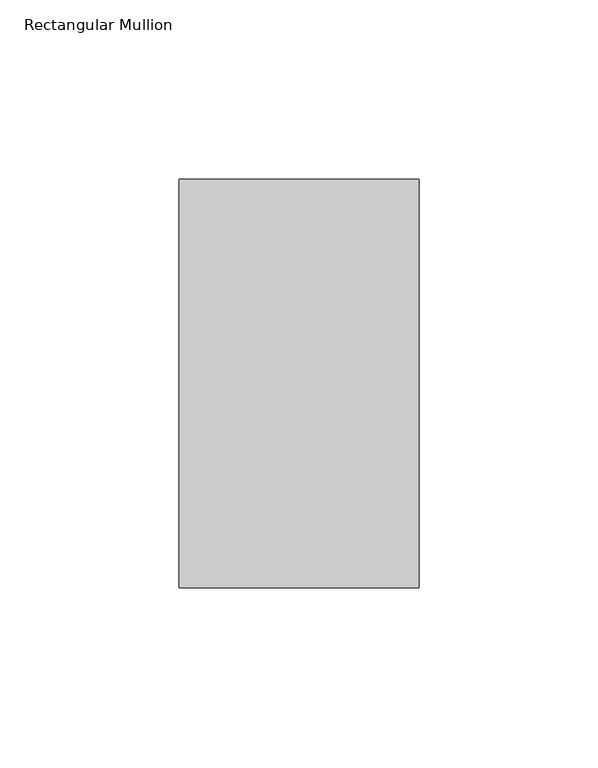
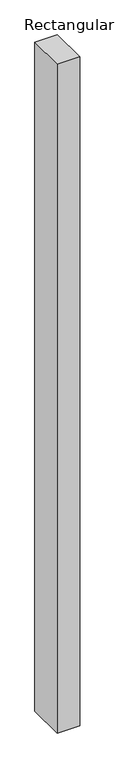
"""IFC4 building model written with IfcOpenShell, lengths in millimetres: member geometry, Rectangular Mullion : 30_rechthoek."""

import ifcopenshell
import ifcopenshell.guid

model = None  # the IFC model being written
_history = None  # IfcOwnerHistory: only IFC2X3 demands one
_inside = {}  # id of a spatial element -> (the spatial element, [elements in it])
_under = {}  # id of a project, library or spatial element -> (it, [spatial elements below it])
_declared = {}  # id of a project -> (the project, [libraries it declares])
_typed = {}  # id of a type object -> (the type object, [elements of that type])
_made_of = {}  # id of a material, layer set ... -> (it, [elements and type objects made of it])


def new_model(schema):
    """Start an empty IFC model of exactly this schema.

    Asked for "IFC4X3", IfcOpenShell would pick the latest addendum, in which some entities
    have other attributes; the version numbers below select the first issue.
    IFC2X3 requires an IfcOwnerHistory on every rooted entity: one is made here for all.
    """
    global model, _history
    if schema == "IFC4X3":
        model = ifcopenshell.file(schema_version=(4, 3, 0, 0))
    else:
        model = ifcopenshell.file(schema=schema)
    _inside.clear()
    _under.clear()
    _declared.clear()
    _typed.clear()
    _made_of.clear()
    _history = None
    if model.schema == "IFC2X3":
        org = make("IfcOrganization", Name="unknown")
        user = make(
            "IfcPersonAndOrganization",
            ThePerson=make("IfcPerson", FamilyName="unknown"),
            TheOrganization=org,
        )
        app = make(
            "IfcApplication",
            ApplicationDeveloper=org,
            Version="unknown",
            ApplicationFullName="unknown",
            ApplicationIdentifier="unknown",
        )
        _history = make(
            "IfcOwnerHistory",
            OwningUser=user,
            OwningApplication=app,
            ChangeAction="ADDED",
            CreationDate=0,
        )
    return model


def make(cls, **values):
    """One entity of the class cls with the attributes given. An attribute that is None is left unset."""
    return model.create_entity(
        cls, **{name: value for name, value in values.items() if value is not None}
    )


def rooted(cls, **values):
    """An entity with a GlobalId (a new one), such as an element, a storey or a relation."""
    return make(cls, GlobalId=ifcopenshell.guid.new(), OwnerHistory=_history, **values)


def si_unit(unit_type, name, prefix=None):
    """IfcSIUnit, for example si_unit("LENGTHUNIT", "METRE", prefix="MILLI")."""
    return make("IfcSIUnit", UnitType=unit_type, Prefix=prefix, Name=name)


def assignment(units):
    """IfcUnitAssignment: the units of a project."""
    return None if units is None else make("IfcUnitAssignment", Units=units)


def point(xyz):
    """IfcCartesianPoint."""
    return None if xyz is None else make("IfcCartesianPoint", Coordinates=xyz)


def direction(xyz):
    """IfcDirection."""
    return None if xyz is None else make("IfcDirection", DirectionRatios=xyz)


def frame(location, z_axis=None, x_axis=None):
    """IfcAxis2Placement3D, a coordinate frame: its origin and axes. An axis left out is left unset."""
    return make(
        "IfcAxis2Placement3D",
        Location=point(location),
        Axis=direction(z_axis),
        RefDirection=direction(x_axis),
    )


def origin():
    """The frame at (0, 0, 0) with its axes left unset."""
    return frame((0.0, 0.0, 0.0))


def place(relative_to, where):
    """IfcLocalPlacement: puts the frame where relative to a parent placement (None: the world)."""
    return make(
        "IfcLocalPlacement", PlacementRelTo=relative_to, RelativePlacement=where
    )


def context(
    kind, dimensions, precision=None, world=None, true_north=None, identifier=None
):
    """IfcGeometricRepresentationContext, for example the 3D "Model" context."""
    return make(
        "IfcGeometricRepresentationContext",
        ContextIdentifier=identifier,
        ContextType=kind,
        CoordinateSpaceDimension=dimensions,
        Precision=precision,
        WorldCoordinateSystem=world,
        TrueNorth=true_north,
    )


def project(units=None, contexts=None):
    """IfcProject with its units and contexts."""
    return rooted(
        "IfcProject",
        Name="project",
        RepresentationContexts=contexts,
        UnitsInContext=assignment(units),
    )


def spatial(cls, under=None, at=None, **own):
    """A site, building, storey or space (cls), placed at a placement, below another one or the project."""
    s = rooted(cls, ObjectPlacement=at, **own)
    if under is not None:
        _under.setdefault(under.id(), (under, []))[1].append(s)
    return s


def polyline(points):
    """IfcPolyline through the points."""
    return make("IfcPolyline", Points=[point(p) for p in points])


def outline(outer, holes=None, kind="AREA"):
    """IfcArbitraryClosedProfileDef: a profile drawn as a closed curve; with holes, ...WithVoids."""
    if holes is None:
        return make("IfcArbitraryClosedProfileDef", ProfileType=kind, OuterCurve=outer)
    return make(
        "IfcArbitraryProfileDefWithVoids",
        ProfileType=kind,
        OuterCurve=outer,
        InnerCurves=holes,
    )


def extrude(swept, where, along, depth):
    """IfcExtrudedAreaSolid: the profile swept, set in the frame where, extruded along a direction by depth."""
    return make(
        "IfcExtrudedAreaSolid",
        SweptArea=swept,
        Position=where,
        ExtrudedDirection=direction(along),
        Depth=depth,
    )


def shape(context_of_items, identifier, shape_type, items):
    """IfcShapeRepresentation: the items that make up one representation, for example the "Body"."""
    return make(
        "IfcShapeRepresentation",
        ContextOfItems=context_of_items,
        RepresentationIdentifier=identifier,
        RepresentationType=shape_type,
        Items=items,
    )


def source(mapping_origin, context_of_items, identifier, shape_type, items):
    """IfcRepresentationMap: a shape defined once, which mapped items show again and again."""
    return make(
        "IfcRepresentationMap",
        MappingOrigin=mapping_origin,
        MappedRepresentation=shape(context_of_items, identifier, shape_type, items),
    )


def transform(
    local_origin,
    x_axis=None,
    y_axis=None,
    z_axis=None,
    scale=None,
    scale2=None,
    scale3=None,
    uniform=True,
):
    """IfcCartesianTransformationOperator3D, or its non-uniform kind. x_axis, y_axis, z_axis: its Axis1, 2, 3."""
    if uniform:
        return make(
            "IfcCartesianTransformationOperator3D",
            Axis1=direction(x_axis),
            Axis2=direction(y_axis),
            LocalOrigin=point(local_origin),
            Scale=scale,
            Axis3=direction(z_axis),
        )
    return make(
        "IfcCartesianTransformationOperator3DnonUniform",
        Axis1=direction(x_axis),
        Axis2=direction(y_axis),
        LocalOrigin=point(local_origin),
        Scale=scale,
        Axis3=direction(z_axis),
        Scale2=scale2,
        Scale3=scale3,
    )


def mapped(mapping_source, mapping_target):
    """IfcMappedItem: shows the shape of a source again, moved by a transform."""
    return make(
        "IfcMappedItem", MappingSource=mapping_source, MappingTarget=mapping_target
    )


def made_of(thing, what):
    """Note that an element or type object is made of a material, layer set ...; save() writes the relation."""
    if what is not None:
        _made_of.setdefault(what.id(), (what, []))[1].append(thing)
    return thing


def element(
    cls,
    number,
    at=None,
    inside=None,
    cuts=None,
    type_object=None,
    material=None,
    context=None,
    identifier="Body",
    shape_type=None,
    held_by="IfcProductDefinitionShape",
    body=None,
    shapes=None,
    **own,
):
    """One element of the class cls, such as IfcWall. Its Tag is "e" and its number.

    at: its placement. inside: the storey or other place that contains it. cuts: it is an
    opening in that element (IfcRelVoidsElement). A single representation is given by context,
    identifier, shape_type and body (its items); several are given by shapes. held_by: the class
    of the entity that holds the representations. save() writes the other relations.
    """
    e = rooted(cls, Tag="e%d" % number, ObjectPlacement=at, **own)
    if body is not None:
        shapes = [shape(context, identifier, shape_type, body)]
    if shapes is not None:
        e.Representation = make(held_by, Representations=shapes)
    if inside is not None:
        _inside.setdefault(inside.id(), (inside, []))[1].append(e)
    if cuts is not None:
        rooted(
            "IfcRelVoidsElement", RelatingBuildingElement=cuts, RelatedOpeningElement=e
        )
    if type_object is not None:
        _typed.setdefault(type_object.id(), (type_object, []))[1].append(e)
    return made_of(e, material)


def aggregate(whole, parts):
    """IfcRelAggregates: a whole, such as a stair, and the parts it consists of."""
    return rooted("IfcRelAggregates", RelatingObject=whole, RelatedObjects=parts)


def save(model, path):
    """Write the relations noted so far, then the file.

    IfcRelAggregates (storeys below a building ...), IfcRelContainedInSpatialStructure (elements
    in a storey), IfcRelDefinesByType, IfcRelAssociatesMaterial and IfcRelDeclares: one each for
    every whole, place, type object, material and project.
    """
    for whole, parts in _under.values():
        aggregate(whole, parts)
    for where, things in _inside.values():
        rooted(
            "IfcRelContainedInSpatialStructure",
            RelatedElements=things,
            RelatingStructure=where,
        )
    for kind, things in _typed.values():
        rooted("IfcRelDefinesByType", RelatedObjects=things, RelatingType=kind)
    for what, things in _made_of.values():
        rooted("IfcRelAssociatesMaterial", RelatedObjects=things, RelatingMaterial=what)
    for by, libraries in _declared.values():
        rooted("IfcRelDeclares", RelatingContext=by, RelatedDefinitions=libraries)
    model.write(path)


def rectangular_mullion_34e5cd4e(model_context):
    return source(origin(), model_context, "Body", "SweptSolid", [
        extrude(outline(polyline([(33.5, 57.0), (33.5, -57.0), (-33.5, -57.0), (-33.5, 57.0), (33.5, 57.0)])), frame((0.0, 0.0, -2099.5), z_axis=(0.0, 0.0, 1.0), x_axis=(1.0, 0.0, 0.0)), (0.0, 0.0, 1.0), 2099.5),
    ])


if __name__ == "__main__":
    model = new_model("IFC4")
    model_context = context("Model", 3, world=origin())
    ifc_project = project(units=[si_unit("LENGTHUNIT", "METRE", prefix="MILLI")], contexts=[model_context])
    site = spatial("IfcSite", under=ifc_project)
    building = spatial("IfcBuilding", under=site)
    placement = place(None, origin())
    rectangular_mullion_shape = rectangular_mullion_34e5cd4e(model_context)
    element("IfcMember", 1, ObjectType="Rectangular Mullion : 30_rechthoek", at=placement, inside=building, context=model_context, shape_type="MappedRepresentation", body=[
        mapped(rectangular_mullion_shape, transform((0.0, 0.0, 0.0), x_axis=(1.0, 0.0, 0.0), y_axis=(0.0, 1.0, 0.0), z_axis=(0.0, 0.0, 1.0))),
    ])
    save(model, "model.ifc")
